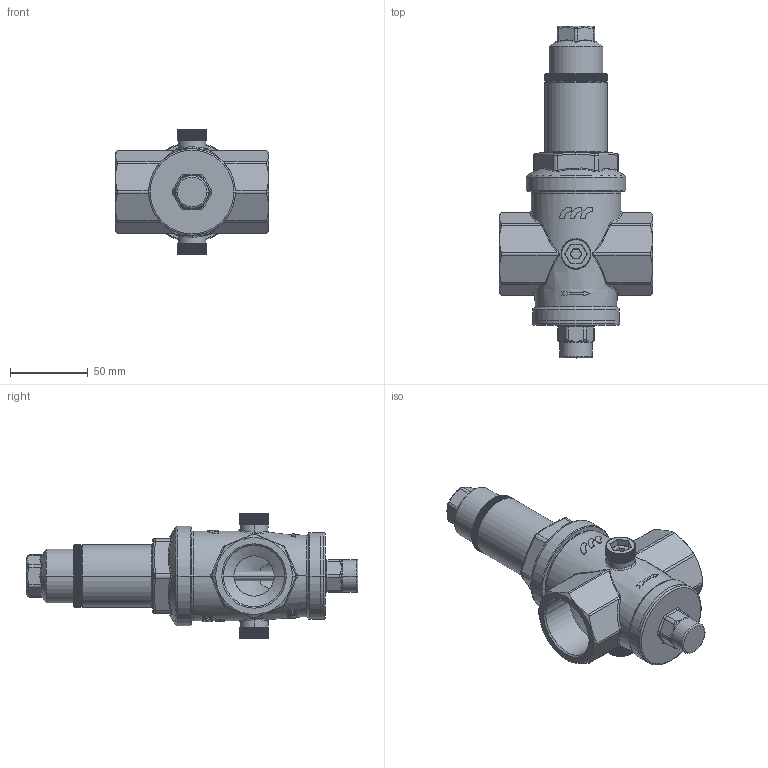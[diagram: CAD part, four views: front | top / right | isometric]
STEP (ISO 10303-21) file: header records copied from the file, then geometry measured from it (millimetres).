
FILE_DESCRIPTION((''),'2;1');
FILE_NAME('504032_ASM','2021-09-06T',('ufficiotecnico'),(''),'CREO PARAMETRIC BY PTC INC, 2016380','CREO PARAMETRIC BY PTC INC, 2016380','');
FILE_SCHEMA(('CONFIG_CONTROL_DESIGN'));
Products named in the file (10): 504032_AL; 504032_ALS_ASM; 490015_L; 504032_CL; 502032_EL_ASM; 502032_F; 504032_BL; 502032_IL; 524032_D; 504032_ASM
Assembly tree (10 placements, depth 3):
  504032_ASM
    504032_ALS_ASM
      504032_AL
    490015_L  x2
    504032_CL
    502032_EL_ASM
    502032_F
    504032_BL
    502032_IL
    524032_D
Bounding box: 99 x 214 x 81 mm (x, y, z)
Volume: 205644.8 mm3; surface area: 102749.5 mm2
Topology: 10 solids, 10 shells, 6287 faces, 13787 edges, 7570 vertices
Faces by surface type: plane 4424, cylinder 1190, torus 232, bspline 218, cone 100, extrusion 93, sphere 30
Entity records: 206123 total; most frequent: CARTESIAN_POINT 90348, ORIENTED_EDGE 25722, DIRECTION 20205, EDGE_CURVE 12861, VERTEX_POINT 7026, AXIS2_PLACEMENT_3D 6917, VECTOR 6371, LINE 6278
